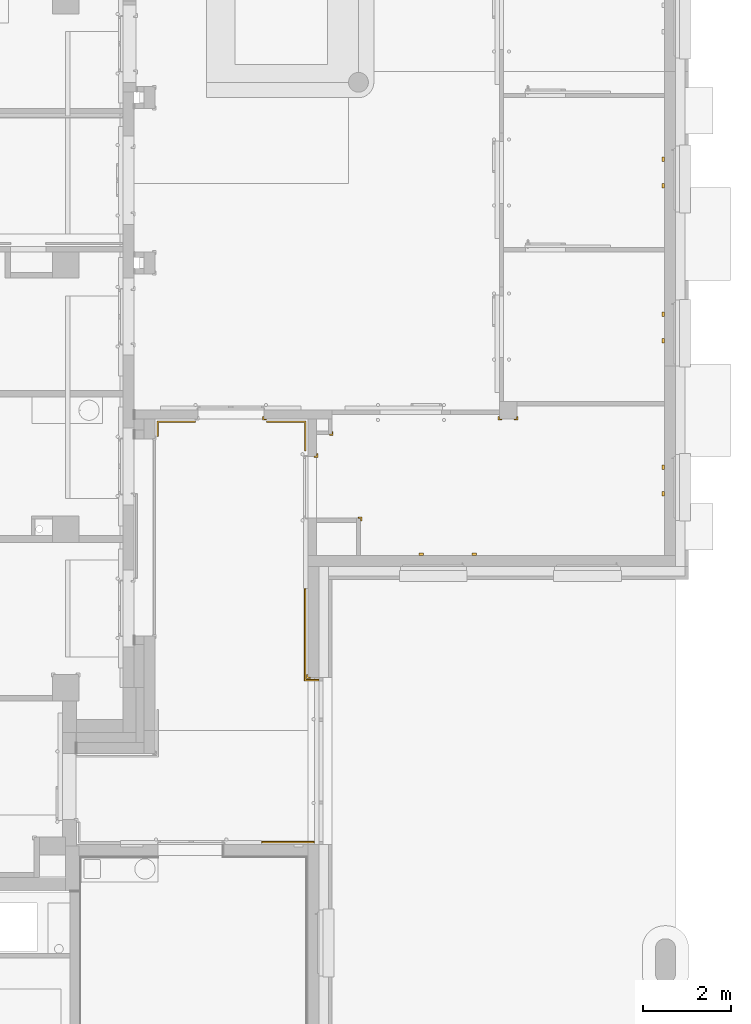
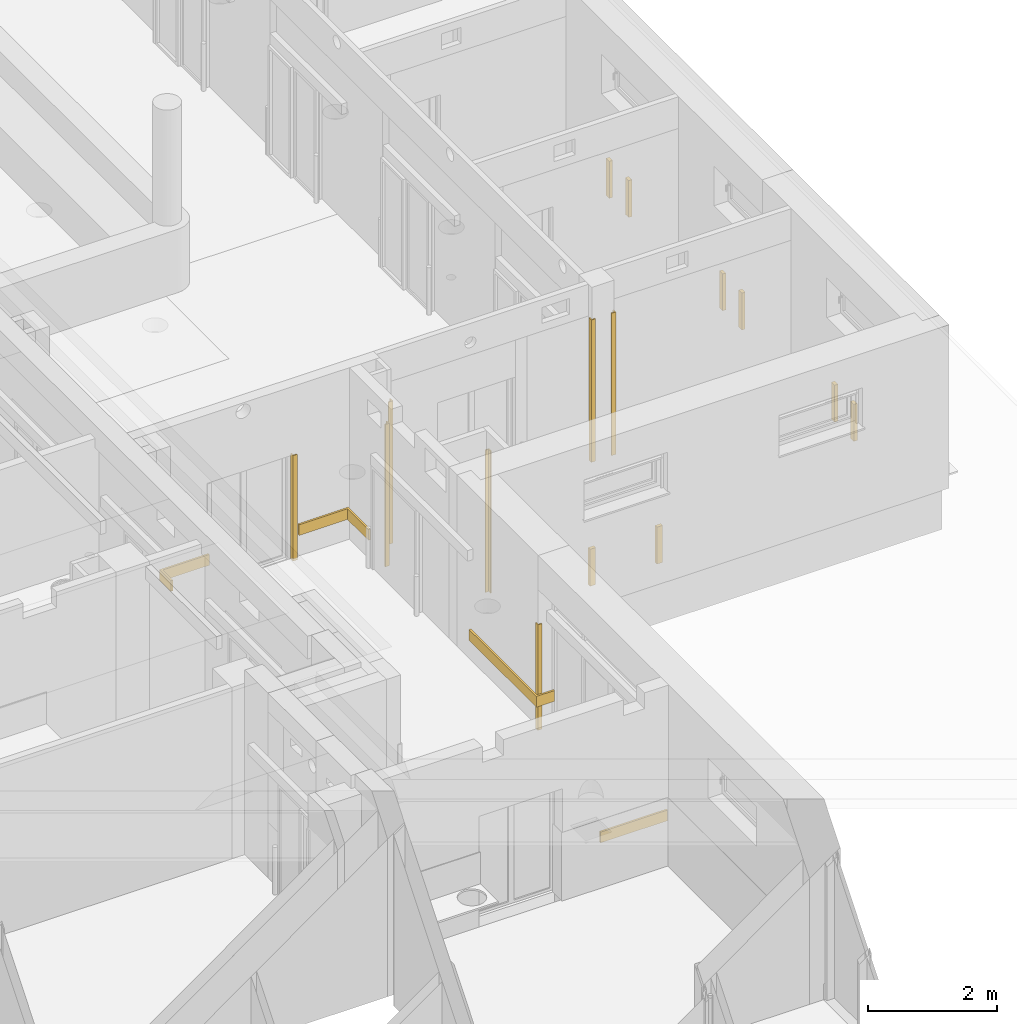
# One storey, part 135 of 140: 19 railings.
"""IFC4 building model written with IfcOpenShell, lengths in metres."""

import ifcopenshell
import ifcopenshell.guid

model = None  # the IFC model being written
_history = None  # IfcOwnerHistory: only IFC2X3 demands one
_inside = {}  # id of a spatial element -> (the spatial element, [elements in it])
_under = {}  # id of a project, library or spatial element -> (it, [spatial elements below it])
_declared = {}  # id of a project -> (the project, [libraries it declares])
_typed = {}  # id of a type object -> (the type object, [elements of that type])
_made_of = {}  # id of a material, layer set ... -> (it, [elements and type objects made of it])


def new_model(schema):
    """Start an empty IFC model of exactly this schema.

    Asked for "IFC4X3", IfcOpenShell would pick the latest addendum, in which some entities
    have other attributes; the version numbers below select the first issue.
    IFC2X3 requires an IfcOwnerHistory on every rooted entity: one is made here for all.
    """
    global model, _history
    if schema == "IFC4X3":
        model = ifcopenshell.file(schema_version=(4, 3, 0, 0))
    else:
        model = ifcopenshell.file(schema=schema)
    _inside.clear()
    _under.clear()
    _declared.clear()
    _typed.clear()
    _made_of.clear()
    _history = None
    if model.schema == "IFC2X3":
        org = make("IfcOrganization", Name="unknown")
        user = make(
            "IfcPersonAndOrganization",
            ThePerson=make("IfcPerson", FamilyName="unknown"),
            TheOrganization=org,
        )
        app = make(
            "IfcApplication",
            ApplicationDeveloper=org,
            Version="unknown",
            ApplicationFullName="unknown",
            ApplicationIdentifier="unknown",
        )
        _history = make(
            "IfcOwnerHistory",
            OwningUser=user,
            OwningApplication=app,
            ChangeAction="ADDED",
            CreationDate=0,
        )
    return model


def make(cls, **values):
    """One entity of the class cls with the attributes given. An attribute that is None is left unset."""
    return model.create_entity(
        cls, **{name: value for name, value in values.items() if value is not None}
    )


def entity(cls, *values):
    """Any entity or typed value of the class cls, its attributes in the order of the schema. None: left unset."""
    e = model.create_entity(cls)
    for i, value in enumerate(values):
        if value is not None:
            e[i] = value
    return e


def rooted(cls, **values):
    """An entity with a GlobalId (a new one), such as an element, a storey or a relation."""
    return make(cls, GlobalId=ifcopenshell.guid.new(), OwnerHistory=_history, **values)


def si_unit(unit_type, name, prefix=None):
    """IfcSIUnit, for example si_unit("LENGTHUNIT", "METRE", prefix="MILLI")."""
    return make("IfcSIUnit", UnitType=unit_type, Prefix=prefix, Name=name)


def converted_unit(unit_type, name, factor, base, dimensions=None, offset=None):
    """IfcConversionBasedUnit, such as the inch: factor (a typed value) times the base unit."""
    return make(
        "IfcConversionBasedUnit"
        if offset is None
        else "IfcConversionBasedUnitWithOffset",
        ConversionOffset=offset,
        Dimensions=None
        if dimensions is None
        else entity("IfcDimensionalExponents", *dimensions),
        UnitType=unit_type,
        Name=name,
        ConversionFactor=make(
            "IfcMeasureWithUnit", ValueComponent=factor, UnitComponent=base
        ),
    )


def derived_unit(unit_type, elements):
    """IfcDerivedUnit: a product of units, each with its exponent."""
    return make(
        "IfcDerivedUnit",
        Elements=[
            make("IfcDerivedUnitElement", Unit=unit, Exponent=power)
            for unit, power in elements
        ],
        UnitType=unit_type,
    )


def assignment(units):
    """IfcUnitAssignment: the units of a project."""
    return None if units is None else make("IfcUnitAssignment", Units=units)


def point(xyz):
    """IfcCartesianPoint."""
    return None if xyz is None else make("IfcCartesianPoint", Coordinates=xyz)


def direction(xyz):
    """IfcDirection."""
    return None if xyz is None else make("IfcDirection", DirectionRatios=xyz)


def frame(location, z_axis=None, x_axis=None):
    """IfcAxis2Placement3D, a coordinate frame: its origin and axes. An axis left out is left unset."""
    return make(
        "IfcAxis2Placement3D",
        Location=point(location),
        Axis=direction(z_axis),
        RefDirection=direction(x_axis),
    )


def origin():
    """The frame at (0, 0, 0) with its axes left unset."""
    return frame((0.0, 0.0, 0.0))


def place(relative_to, where):
    """IfcLocalPlacement: puts the frame where relative to a parent placement (None: the world)."""
    return make(
        "IfcLocalPlacement", PlacementRelTo=relative_to, RelativePlacement=where
    )


def context(
    kind, dimensions, precision=None, world=None, true_north=None, identifier=None
):
    """IfcGeometricRepresentationContext, for example the 3D "Model" context."""
    return make(
        "IfcGeometricRepresentationContext",
        ContextIdentifier=identifier,
        ContextType=kind,
        CoordinateSpaceDimension=dimensions,
        Precision=precision,
        WorldCoordinateSystem=world,
        TrueNorth=true_north,
    )


def subcontext(parent, identifier, kind, view, scale=None):
    """IfcGeometricRepresentationSubContext, for example "Body" below "Model"."""
    return make(
        "IfcGeometricRepresentationSubContext",
        ContextIdentifier=identifier,
        ContextType=kind,
        ParentContext=parent,
        TargetScale=scale,
        TargetView=view,
    )


def project(units=None, contexts=None):
    """IfcProject with its units and contexts."""
    return rooted(
        "IfcProject",
        Name="project",
        RepresentationContexts=contexts,
        UnitsInContext=assignment(units),
    )


def spatial(cls, under=None, at=None, **own):
    """A site, building, storey or space (cls), placed at a placement, below another one or the project."""
    s = rooted(cls, ObjectPlacement=at, **own)
    if under is not None:
        _under.setdefault(under.id(), (under, []))[1].append(s)
    return s


def faces_of(points, faces, orient=None, outer=None):
    """IfcFace entities. A face is a list of loops; a loop is a list of indices into points, from 0.

    orient and outer hold one flag for each loop. By default every Orientation is true, the
    first loop of a face is its IfcFaceOuterBound and the others are IfcFaceBound.
    """
    made = []
    for i, loops in enumerate(faces):
        bounds = []
        for j, loop in enumerate(loops):
            is_outer = j == 0 if outer is None else outer[i][j]
            bounds.append(
                make(
                    "IfcFaceOuterBound" if is_outer else "IfcFaceBound",
                    Bound=make("IfcPolyLoop", Polygon=[points[k] for k in loop]),
                    Orientation=True if orient is None else orient[i][j],
                )
            )
        made.append(make("IfcFace", Bounds=bounds))
    return made


def faceted_brep(points, faces, orient=None, outer=None, voids=None):
    """IfcFacetedBrep: a solid bounded by flat faces; with voids (closed shells), ...WithVoids."""
    shared = [point(p) for p in points]
    hull = make("IfcClosedShell", CfsFaces=faces_of(shared, faces, orient, outer))
    if voids is None:
        return make("IfcFacetedBrep", Outer=hull)
    return make(
        "IfcFacetedBrepWithVoids",
        Outer=hull,
        Voids=[
            make(cls, CfsFaces=faces_of(shared, fs, o, b)) for cls, fs, o, b in voids
        ],
    )


def shape(context_of_items, identifier, shape_type, items):
    """IfcShapeRepresentation: the items that make up one representation, for example the "Body"."""
    return make(
        "IfcShapeRepresentation",
        ContextOfItems=context_of_items,
        RepresentationIdentifier=identifier,
        RepresentationType=shape_type,
        Items=items,
    )


def made_of(thing, what):
    """Note that an element or type object is made of a material, layer set ...; save() writes the relation."""
    if what is not None:
        _made_of.setdefault(what.id(), (what, []))[1].append(thing)
    return thing


def element(
    cls,
    number,
    at=None,
    inside=None,
    cuts=None,
    type_object=None,
    material=None,
    context=None,
    identifier="Body",
    shape_type=None,
    held_by="IfcProductDefinitionShape",
    body=None,
    shapes=None,
    **own,
):
    """One element of the class cls, such as IfcWall. Its Tag is "e" and its number.

    at: its placement. inside: the storey or other place that contains it. cuts: it is an
    opening in that element (IfcRelVoidsElement). A single representation is given by context,
    identifier, shape_type and body (its items); several are given by shapes. held_by: the class
    of the entity that holds the representations. save() writes the other relations.
    """
    e = rooted(cls, Tag="e%d" % number, ObjectPlacement=at, **own)
    if body is not None:
        shapes = [shape(context, identifier, shape_type, body)]
    if shapes is not None:
        e.Representation = make(held_by, Representations=shapes)
    if inside is not None:
        _inside.setdefault(inside.id(), (inside, []))[1].append(e)
    if cuts is not None:
        rooted(
            "IfcRelVoidsElement", RelatingBuildingElement=cuts, RelatedOpeningElement=e
        )
    if type_object is not None:
        _typed.setdefault(type_object.id(), (type_object, []))[1].append(e)
    return made_of(e, material)


def aggregate(whole, parts):
    """IfcRelAggregates: a whole, such as a stair, and the parts it consists of."""
    return rooted("IfcRelAggregates", RelatingObject=whole, RelatedObjects=parts)


def save(model, path):
    """Write the relations noted so far, then the file.

    IfcRelAggregates (storeys below a building ...), IfcRelContainedInSpatialStructure (elements
    in a storey), IfcRelDefinesByType, IfcRelAssociatesMaterial and IfcRelDeclares: one each for
    every whole, place, type object, material and project.
    """
    for whole, parts in _under.values():
        aggregate(whole, parts)
    for where, things in _inside.values():
        rooted(
            "IfcRelContainedInSpatialStructure",
            RelatedElements=things,
            RelatingStructure=where,
        )
    for kind, things in _typed.values():
        rooted("IfcRelDefinesByType", RelatedObjects=things, RelatingType=kind)
    for what, things in _made_of.values():
        rooted("IfcRelAssociatesMaterial", RelatedObjects=things, RelatingMaterial=what)
    for by, libraries in _declared.values():
        rooted("IfcRelDeclares", RelatingContext=by, RelatedDefinitions=libraries)
    model.write(path)


model = new_model("IFC4")

# Units and contexts
model_context = context("Model", 3, precision=1e-05, world=origin())
body_context = subcontext(model_context, "Body", "Model", "MODEL_VIEW")
ifc_project = project(units=[si_unit("LENGTHUNIT", "METRE"), si_unit("AREAUNIT", "SQUARE_METRE"), si_unit("VOLUMEUNIT", "CUBIC_METRE"), si_unit("MASSUNIT", "GRAM", prefix="KILO"), converted_unit("PLANEANGLEUNIT", "DEGREE", entity("IfcPlaneAngleMeasure", 0.0174532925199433), si_unit("PLANEANGLEUNIT", "RADIAN"), dimensions=[0, 0, 0, 0, 0, 0, 0]), derived_unit("THERMALTRANSMITTANCEUNIT", [(si_unit("POWERUNIT", "WATT"), 1), (si_unit("THERMODYNAMICTEMPERATUREUNIT", "KELVIN"), -1), (si_unit("LENGTHUNIT", "METRE"), -2)]), derived_unit("VOLUMETRICFLOWRATEUNIT", [(si_unit("LENGTHUNIT", "METRE"), 3), (converted_unit("TIMEUNIT", "hour", entity("IfcTimeMeasure", 3600.0), si_unit("TIMEUNIT", "SECOND"), dimensions=[0, 0, 1, 0, 0, 0, 0]), -1), (si_unit("LENGTHUNIT", "METRE"), -1)])], contexts=[model_context])

# Site, building, storey
site_placement = place(None, origin())
site = spatial("IfcSite", under=ifc_project, at=site_placement, Name="3. ASŘ", CompositionType="ELEMENT")
building_placement = place(site_placement, origin())
building = spatial("IfcBuilding", under=site, at=building_placement, Name="Pavilon C", CompositionType="ELEMENT")
storey_placement = place(building_placement, origin())
storey = spatial("IfcBuildingStorey", under=building, at=storey_placement, Name="Půdorys 1.NP", CompositionType="ELEMENT", Elevation=0.0)

# Railings
railing_1_placement = place(storey_placement, frame((56.594, 7.39399999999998, 0.1)))
element("IfcRailing", 1, at=railing_1_placement, inside=storey, Name="OCHRANA ROHŮ", PredefinedType="USERDEFINED", context=body_context, shape_type="Brep", body=[
    faceted_brep([(0.0, 0.076, 2.7), (0.0, 0.056, 2.7), (0.0, 0.056, 4.54747350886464e-16), (0.0, 0.076, 0.0), (0.076, 0.076, 2.7), (0.076, 0.0, 2.7), (0.056, 0.0, 2.7), (0.056, 0.056, 2.7), (0.056, 0.056, 4.54747350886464e-16), (0.056, 0.0, 4.54747350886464e-16), (0.076, 0.0, 0.0), (0.076, 0.076, 0.0)], [[[0, 1, 2, 3]], [[0, 4, 5, 6, 7, 1]], [[1, 7, 8, 2]], [[2, 8, 9, 10, 11, 3]], [[3, 11, 4, 0]], [[5, 10, 9, 6]], [[7, 6, 9, 8]], [[11, 10, 5, 4]]], orient=[[False], [False], [False], [False], [False], [False], [False], [False]]),
])
railing_2_placement = place(storey_placement, frame((55.944, 9.32999999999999, 0.1)))
element("IfcRailing", 2, at=railing_2_placement, inside=storey, Name="OCHRANA ROHŮ", PredefinedType="USERDEFINED", context=body_context, shape_type="Brep", body=[
    faceted_brep([(0.076, 0.076, 2.7), (0.056, 0.076, 2.7), (0.056, 0.076, 4.54747350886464e-16), (0.076, 0.076, 0.0), (0.076, 0.0, 2.7), (0.0, 0.0, 2.7), (0.0, 0.02, 2.7), (0.056, 0.02, 2.7), (0.056, 0.02, 4.54747350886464e-16), (0.0, 0.02, 4.54747350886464e-16), (0.0, 0.0, 0.0), (0.076, 0.0, 0.0)], [[[0, 1, 2, 3]], [[0, 4, 5, 6, 7, 1]], [[1, 7, 8, 2]], [[2, 8, 9, 10, 11, 3]], [[3, 11, 4, 0]], [[5, 10, 9, 6]], [[7, 6, 9, 8]], [[11, 10, 5, 4]]], orient=[[False], [False], [False], [False], [False], [False], [False], [False]]),
])
railing_3_placement = place(storey_placement, frame((59.78, 9.67999999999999, 0.1)))
element("IfcRailing", 3, at=railing_3_placement, inside=storey, Name="OCHRANA ROHŮ", PredefinedType="USERDEFINED", context=body_context, shape_type="Brep", body=[
    faceted_brep([(0.0759999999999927, 0.0, 2.7), (0.076, 0.02, 2.7), (0.076, 0.02, 4.54747350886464e-16), (0.0759999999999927, 0.0, 0.0), (-7.27595761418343e-15, 0.0, 2.7), (0.0, 0.076, 2.7), (0.02, 0.076, 2.7), (0.02, 0.02, 2.7), (0.02, 0.02, 4.54747350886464e-16), (0.02, 0.076, 4.54747350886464e-16), (0.0, 0.076, 0.0), (-7.27595761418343e-15, 0.0, 0.0)], [[[0, 1, 2, 3]], [[0, 4, 5, 6, 7, 1]], [[1, 7, 8, 2]], [[2, 8, 9, 10, 11, 3]], [[3, 11, 4, 0]], [[5, 10, 9, 6]], [[7, 6, 9, 8]], [[11, 10, 5, 4]]], orient=[[False], [False], [False], [False], [False], [False], [False], [False]]),
])
railing_4_placement = place(storey_placement, frame((60.144, 9.67999999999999, 0.1)))
element("IfcRailing", 4, at=railing_4_placement, inside=storey, Name="OCHRANA ROHŮ", PredefinedType="USERDEFINED", context=body_context, shape_type="Brep", body=[
    faceted_brep([(0.076, 0.076, 2.7), (0.056, 0.076, 2.7), (0.056, 0.076, 4.54747350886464e-16), (0.076, 0.076, 0.0), (0.076, 0.0, 2.7), (0.0, 0.0, 2.7), (0.0, 0.02, 2.7), (0.056, 0.02, 2.7), (0.056, 0.02, 4.54747350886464e-16), (0.0, 0.02, 4.54747350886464e-16), (0.0, 0.0, 0.0), (0.076, 0.0, 0.0)], [[[0, 1, 2, 3]], [[0, 4, 5, 6, 7, 1]], [[1, 7, 8, 2]], [[2, 8, 9, 10, 11, 3]], [[3, 11, 4, 0]], [[5, 10, 9, 6]], [[7, 6, 9, 8]], [[11, 10, 5, 4]]], orient=[[False], [False], [False], [False], [False], [False], [False], [False]]),
])
railing_5_placement = place(storey_placement, frame((54.43, 9.67999999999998, 0.1)))
element("IfcRailing", 5, at=railing_5_placement, inside=storey, Name="OCHRANA ROHŮ", PredefinedType="USERDEFINED", context=body_context, shape_type="Brep", body=[
    faceted_brep([(0.076, 0.0, 2.0), (0.076, 0.02, 2.0), (0.076, 0.02, 3.41060513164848e-16), (0.076, 0.0, -1.13686837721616e-16), (0.0, 0.0, 2.0), (0.0, 0.076, 2.0), (0.02, 0.076, 2.0), (0.02, 0.02, 2.0), (0.02, 0.02, 3.41060513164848e-16), (0.02, 0.076, 3.41060513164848e-16), (0.0, 0.076, -1.13686837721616e-16), (0.0, 0.0, -1.13686837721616e-16)], [[[0, 1, 2, 3]], [[0, 4, 5, 6, 7, 1]], [[1, 7, 8, 2]], [[2, 8, 9, 10, 11, 3]], [[3, 11, 4, 0]], [[5, 10, 9, 6]], [[7, 6, 9, 8]], [[11, 10, 5, 4]]], orient=[[False], [False], [False], [False], [False], [False], [False], [False]]),
])
railing_6_placement = place(storey_placement, frame((55.594, 8.82999999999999, 0.1)))
element("IfcRailing", 6, at=railing_6_placement, inside=storey, Name="OCHRANA ROHŮ", PredefinedType="USERDEFINED", context=body_context, shape_type="Brep", body=[
    faceted_brep([(0.076, 0.076, 2.7), (0.056, 0.076, 2.7), (0.056, 0.076, 4.54747350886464e-16), (0.076, 0.076, 0.0), (0.076, 0.0, 2.7), (0.0, 0.0, 2.7), (0.0, 0.02, 2.7), (0.056, 0.02, 2.7), (0.056, 0.02, 4.54747350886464e-16), (0.0, 0.02, 4.54747350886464e-16), (0.0, 0.0, 0.0), (0.076, 0.0, 0.0)], [[[0, 1, 2, 3]], [[0, 4, 5, 6, 7, 1]], [[1, 7, 8, 2]], [[2, 8, 9, 10, 11, 3]], [[3, 11, 4, 0]], [[5, 10, 9, 6]], [[7, 6, 9, 8]], [[11, 10, 5, 4]]], orient=[[False], [False], [False], [False], [False], [False], [False], [False]]),
])
railing_7_placement = place(storey_placement, frame((52.0225, 9.30599999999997, 0.597)))
element("IfcRailing", 7, at=railing_7_placement, inside=storey, Name="NÁRAZOVÉ SVODIDLO", PredefinedType="USERDEFINED", context=body_context, shape_type="Brep", body=[
    faceted_brep([(0.0, 0.0, 0.203), (0.035, 0.0, 0.203), (0.035, 0.0, 0.0), (0.0, 0.0, 0.0), (0.0, 0.351500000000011, 0.203), (0.871499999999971, 0.351500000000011, 0.203), (0.871499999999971, 0.316500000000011, 0.203), (0.035, 0.316500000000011, 0.203), (0.035, 0.316500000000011, 0.0), (0.871499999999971, 0.316500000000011, 0.0), (0.871499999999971, 0.351500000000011, 0.0), (0.0, 0.351500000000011, 0.0)], [[[0, 1, 2, 3]], [[0, 4, 5, 6, 7, 1]], [[1, 7, 8, 2]], [[2, 8, 9, 10, 11, 3]], [[3, 11, 4, 0]], [[5, 10, 9, 6]], [[7, 6, 9, 8]], [[11, 10, 5, 4]]], orient=[[False], [False], [False], [False], [False], [False], [False], [False]]),
])
railing_8_placement = place(storey_placement, frame((54.506, 8.96999999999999, 0.597)))
element("IfcRailing", 8, at=railing_8_placement, inside=storey, Name="NÁRAZOVÉ SVODIDLO", PredefinedType="USERDEFINED", context=body_context, shape_type="Brep", body=[
    faceted_brep([(0.0, 0.687499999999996, 0.203), (0.0, 0.652499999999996, 0.203), (0.0, 0.652499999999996, 0.0), (0.0, 0.687499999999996, 0.0), (0.901500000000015, 0.687499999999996, 0.203), (0.901500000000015, 0.0, 0.203), (0.866500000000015, 0.0, 0.203), (0.866500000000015, 0.652499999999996, 0.203), (0.866500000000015, 0.652499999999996, 0.0), (0.866500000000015, 0.0, 0.0), (0.901500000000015, 0.0, 0.0), (0.901500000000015, 0.687499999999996, 0.0)], [[[0, 1, 2, 3]], [[0, 4, 5, 6, 7, 1]], [[1, 7, 8, 2]], [[2, 8, 9, 10, 11, 3]], [[3, 11, 4, 0]], [[5, 10, 9, 6]], [[7, 6, 9, 8]], [[11, 10, 5, 4]]], orient=[[False], [False], [False], [False], [False], [False], [False], [False]]),
])
railing_9_placement = place(storey_placement, frame((55.3725, 3.75249999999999, 0.597)))
element("IfcRailing", 9, at=railing_9_placement, inside=storey, Name="NÁRAZOVÉ SVODIDLO", PredefinedType="USERDEFINED", context=body_context, shape_type="Brep", body=[
    faceted_brep([(0.035, 2.0975, 0.203), (0.0, 2.0975, 0.203), (0.0, 2.0975, 0.0), (0.035, 2.0975, 0.0), (0.035, 0.0350000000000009, 0.203), (0.3275, 0.035, 0.203), (0.3275, 0.0, 0.203), (0.0, 9.09494701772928e-16, 0.203), (0.0, 9.09494701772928e-16, 0.0), (0.3275, 0.0, 0.0), (0.3275, 0.035, 0.0), (0.035, 0.0350000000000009, 0.0)], [[[0, 1, 2, 3]], [[0, 4, 5, 6, 7, 1]], [[1, 7, 8, 2]], [[2, 8, 9, 10, 11, 3]], [[3, 11, 4, 0]], [[5, 10, 9, 6]], [[7, 6, 9, 8]], [[11, 10, 5, 4]]], orient=[[False], [False], [False], [False], [False], [False], [False], [False]]),
])
railing_10_placement = place(storey_placement, frame((54.4, 0.0724999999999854, 0.597)))
element("IfcRailing", 10, at=railing_10_placement, inside=storey, Name="NÁRAZOVÉ SVODIDLO", PredefinedType="USERDEFINED", context=body_context, shape_type="Brep", body=[
    faceted_brep([(1.19999999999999, 0.0, 0.203), (1.19999999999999, 0.035, 0.203), (1.19999999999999, 0.035, 0.0), (1.19999999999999, 4.2632564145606e-17, 0.0), (0.0, 2.98427949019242e-16, 0.203), (0.0, 3.26849658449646e-16, 0.0), (0.0, 0.0350000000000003, 0.0), (0.0, 0.0350000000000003, 0.203)], [[[0, 1, 2, 3]], [[4, 5, 6, 7]], [[0, 4, 7, 1]], [[1, 7, 6, 2]], [[2, 6, 5, 3]], [[3, 5, 4, 0]]], orient=[[False], [False], [False], [False], [False], [False]]),
])
railing_11_placement = place(storey_placement, frame((55.43, 3.80999999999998, 0.1)))
element("IfcRailing", 11, at=railing_11_placement, inside=storey, Name="OCHRANA ROHŮ", PredefinedType="USERDEFINED", context=body_context, shape_type="Brep", body=[
    faceted_brep([(0.076, 0.0, 2.0), (0.076, 0.02, 2.0), (0.076, 0.02, 3.41060513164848e-16), (0.076, 0.0, -1.13686837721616e-16), (0.0, 0.0, 2.0), (0.0, 0.076, 2.0), (0.02, 0.076, 2.0), (0.02, 0.02, 2.0), (0.02, 0.02, 3.41060513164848e-16), (0.02, 0.076, 3.41060513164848e-16), (0.0, 0.076, -1.13686837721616e-16), (0.0, 0.0, -1.13686837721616e-16)], [[[0, 1, 2, 3]], [[0, 4, 5, 6, 7, 1]], [[1, 7, 8, 2]], [[2, 8, 9, 10, 11, 3]], [[3, 11, 4, 0]], [[5, 10, 9, 6]], [[7, 6, 9, 8]], [[11, 10, 5, 4]]], orient=[[False], [False], [False], [False], [False], [False], [False], [False]]),
])
for number, where in (
    (12, (63.49, 8.54899999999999, 0.25)),
    (13, (63.49, 7.94899999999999, 0.25)),
    (14, (63.49, 12.0288989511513, 0.25)),
    (15, (63.49, 11.4288989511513, 0.25)),
    (16, (63.49, 15.5474999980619, 0.25)),
    (17, (63.49, 14.9474999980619, 0.25)),
):
    element("IfcRailing", number, at=place(storey_placement, frame(where)), inside=storey, Name="VERTIKÁLNÍ CHRÁNIČ", PredefinedType="USERDEFINED", context=body_context, shape_type="Brep", body=[
        faceted_brep([(0.0, 0.0, 0.7), (0.06, 0.0, 0.7), (0.06, 0.0, 1.70530256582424e-16), (0.0, 0.0, 5.6843418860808e-17), (0.0, 0.102, 0.7), (0.0, 0.102, 5.6843418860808e-17), (0.06, 0.102, 1.70530256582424e-16), (0.06, 0.102, 0.7)], [[[0, 1, 2, 3]], [[4, 5, 6, 7]], [[0, 4, 7, 1]], [[1, 7, 6, 2]], [[2, 6, 5, 3]], [[3, 5, 4, 0]]], orient=[[False], [False], [False], [False], [False], [False]]),
    ])
for number, where in (
    (18, (59.177437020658, 6.59999999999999, 0.25)),
    (19, (57.977437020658, 6.59999999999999, 0.25)),
):
    element("IfcRailing", number, at=place(storey_placement, frame(where)), inside=storey, Name="VERTIKÁLNÍ CHRÁNIČ", PredefinedType="USERDEFINED", context=body_context, shape_type="Brep", body=[
        faceted_brep([(0.0, 0.06, 0.7), (0.0, 0.0, 0.7), (0.0, 0.0, 1.70530256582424e-16), (0.0, 0.06, 5.6843418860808e-17), (0.102, 0.06, 0.7), (0.102, 0.06, 5.6843418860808e-17), (0.102, 0.0, 1.70530256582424e-16), (0.102, 0.0, 0.7)], [[[0, 1, 2, 3]], [[4, 5, 6, 7]], [[0, 4, 7, 1]], [[1, 7, 6, 2]], [[2, 6, 5, 3]], [[3, 5, 4, 0]]], orient=[[False], [False], [False], [False], [False], [False]]),
    ])

save(model, "model.ifc")
